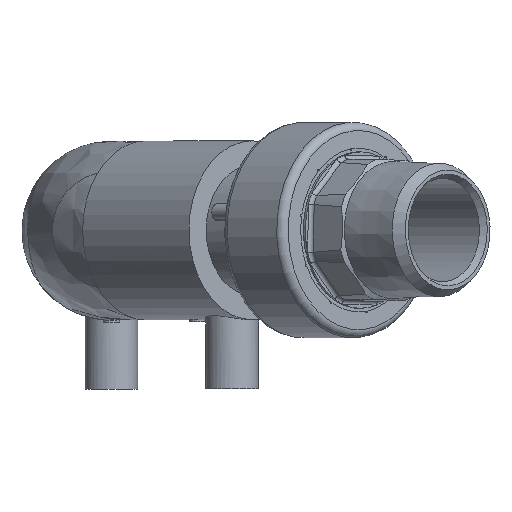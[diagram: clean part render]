
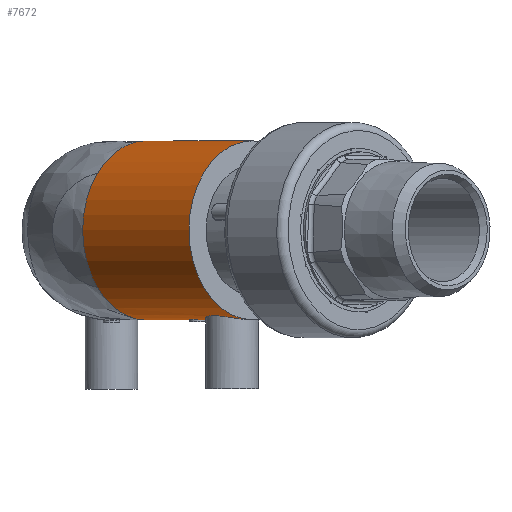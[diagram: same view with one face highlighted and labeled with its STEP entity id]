
A CAD part, top view. The second image highlights one B-rep face of the part: STEP entity #7672.
In plain terms, the highlighted cylindrical face has radius 22 mm (diameter 44 mm), a full revolution.
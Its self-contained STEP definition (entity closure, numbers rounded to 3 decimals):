
#723=CYLINDRICAL_SURFACE('',#9839,22.);
#938=B_SPLINE_CURVE_WITH_KNOTS('',3,(#12772,#12773,#12774,#12775,#12776,
#12777,#12778,#12779,#12780,#12781,#12782,#12783,#12784,#12785,#12786,#12787,
#12788,#12789,#12790),.UNSPECIFIED.,.T.,.F.,(1,1,1,1,1,1,1,1,1,1,1,1,1,
1,1,1,1,1,1,1,1,1,1),(-0.008,-0.005,-0.003,
0.,0.003,0.005,0.008,
0.01,0.013,0.015,0.018,
0.02,0.023,0.026,0.028,
0.031,0.033,0.036,0.038,
0.041,0.043,0.046,0.049),
 .UNSPECIFIED.);
#939=B_SPLINE_CURVE_WITH_KNOTS('',3,(#12801,#12802,#12803,#12804,#12805,
#12806,#12807,#12808,#12809,#12810,#12811),.UNSPECIFIED.,.T.,.F.,(1,1,1,
1,1,1,1,1,1,1,1,1,1,1,1),(-0.005,-0.003,-0.002,
0.,0.002,0.003,0.005,0.006,
0.008,0.009,0.011,0.013,
0.014,0.016,0.017),.UNSPECIFIED.);
#1537=ORIENTED_EDGE('',*,*,#4006,.T.);
#1538=ORIENTED_EDGE('',*,*,#4009,.T.);
#1539=ORIENTED_EDGE('',*,*,#4017,.F.);
#1540=ORIENTED_EDGE('',*,*,#4018,.T.);
#1541=ORIENTED_EDGE('',*,*,#4019,.F.);
#4006=EDGE_CURVE('',#5250,#5250,#938,.T.);
#4009=EDGE_CURVE('',#5253,#5253,#939,.T.);
#4017=EDGE_CURVE('',#5260,#5260,#6080,.F.);
#4018=EDGE_CURVE('',#5261,#5262,#6081,.F.);
#4019=EDGE_CURVE('',#5261,#5262,#6082,.F.);
#5250=VERTEX_POINT('',#12791);
#5253=VERTEX_POINT('',#12812);
#5260=VERTEX_POINT('',#12842);
#5261=VERTEX_POINT('',#12844);
#5262=VERTEX_POINT('',#12845);
#6080=CIRCLE('',#9840,22.);
#6081=CIRCLE('',#9841,22.);
#6082=CIRCLE('',#9842,22.);
#6425=EDGE_LOOP('',(#1537));
#6426=EDGE_LOOP('',(#1538));
#6427=EDGE_LOOP('',(#1539));
#6428=EDGE_LOOP('',(#1540,#1541));
#6994=FACE_BOUND('',#6425,.T.);
#6995=FACE_BOUND('',#6426,.T.);
#6996=FACE_BOUND('',#6427,.T.);
#6997=FACE_BOUND('',#6428,.T.);
#7672=ADVANCED_FACE('',(#6994,#6995,#6996,#6997),#723,.T.);
#9839=AXIS2_PLACEMENT_3D('',#12840,#10774,#10775);
#9840=AXIS2_PLACEMENT_3D('',#12841,#10776,#10777);
#9841=AXIS2_PLACEMENT_3D('',#12843,#10778,#10779);
#9842=AXIS2_PLACEMENT_3D('',#12846,#10780,#10781);
#10774=DIRECTION('',(0.707,0.,0.707));
#10775=DIRECTION('',(0.707,0.,-0.707));
#10776=DIRECTION('',(-0.707,0.,-0.707));
#10777=DIRECTION('',(0.707,0.,-0.707));
#10778=DIRECTION('',(-0.707,0.,-0.707));
#10779=DIRECTION('',(0.707,0.,-0.707));
#10780=DIRECTION('',(0.707,0.,0.707));
#10781=DIRECTION('',(0.,1.,0.));
#12772=CARTESIAN_POINT('',(23.529,-21.129,32.231));
#12773=CARTESIAN_POINT('',(24.981,-20.962,34.418));
#12774=CARTESIAN_POINT('',(27.161,-21.129,35.866));
#12775=CARTESIAN_POINT('',(29.699,-21.516,36.365));
#12776=CARTESIAN_POINT('',(32.236,-21.895,35.866));
#12777=CARTESIAN_POINT('',(34.412,-22.053,34.42));
#12778=CARTESIAN_POINT('',(35.865,-21.895,32.241));
#12779=CARTESIAN_POINT('',(36.365,-21.516,29.696));
#12780=CARTESIAN_POINT('',(35.865,-21.129,27.159));
#12781=CARTESIAN_POINT('',(34.418,-20.963,24.983));
#12782=CARTESIAN_POINT('',(32.242,-21.128,23.533));
#12783=CARTESIAN_POINT('',(29.703,-21.515,23.032));
#12784=CARTESIAN_POINT('',(27.162,-21.895,23.53));
#12785=CARTESIAN_POINT('',(24.982,-22.053,24.979));
#12786=CARTESIAN_POINT('',(23.532,-21.895,27.157));
#12787=CARTESIAN_POINT('',(23.033,-21.516,29.697));
#12788=CARTESIAN_POINT('',(23.529,-21.129,32.231));
#12789=CARTESIAN_POINT('',(24.981,-20.962,34.418));
#12790=CARTESIAN_POINT('',(27.161,-21.129,35.866));
#12791=CARTESIAN_POINT('',(25.102,-21.018,34.295));
#12801=CARTESIAN_POINT('',(23.43,-21.955,21.215));
#12802=CARTESIAN_POINT('',(22.781,-21.886,19.645));
#12803=CARTESIAN_POINT('',(21.213,-21.955,18.997));
#12804=CARTESIAN_POINT('',(19.647,-22.023,19.645));
#12805=CARTESIAN_POINT('',(18.996,-21.955,21.212));
#12806=CARTESIAN_POINT('',(19.646,-21.886,22.78));
#12807=CARTESIAN_POINT('',(21.211,-21.954,23.429));
#12808=CARTESIAN_POINT('',(22.779,-22.023,22.782));
#12809=CARTESIAN_POINT('',(23.43,-21.955,21.215));
#12810=CARTESIAN_POINT('',(22.781,-21.886,19.645));
#12811=CARTESIAN_POINT('',(21.213,-21.955,18.997));
#12812=CARTESIAN_POINT('',(22.627,-21.909,19.799));
#12840=CARTESIAN_POINT('',(8.485,0.,8.485));
#12841=CARTESIAN_POINT('',(34.648,0.,34.648));
#12842=CARTESIAN_POINT('',(50.205,0.,19.092));
#12843=CARTESIAN_POINT('',(8.485,0.,8.485));
#12844=CARTESIAN_POINT('',(-3.468,-14.079,20.439));
#12845=CARTESIAN_POINT('',(-3.468,14.079,20.439));
#12846=CARTESIAN_POINT('',(8.485,0.,8.485));
